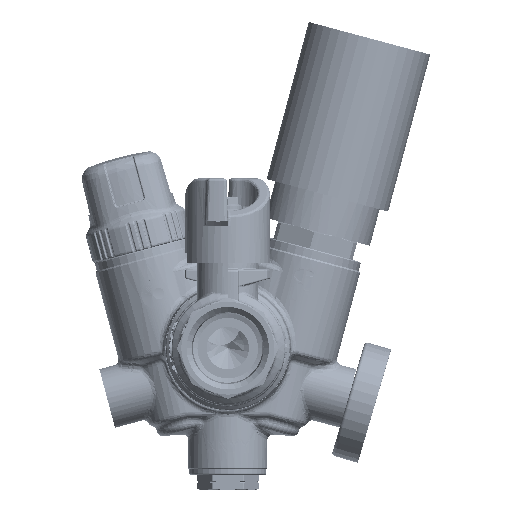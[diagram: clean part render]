
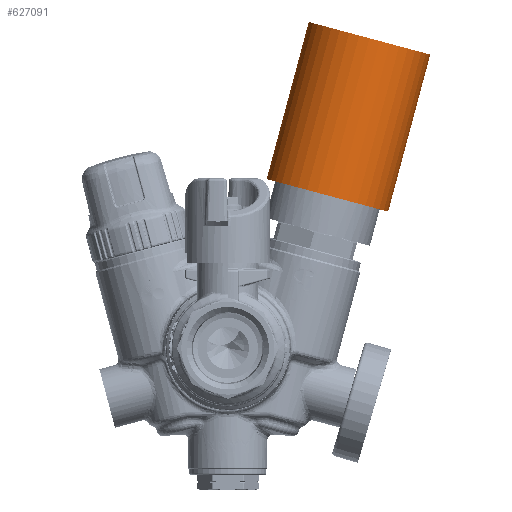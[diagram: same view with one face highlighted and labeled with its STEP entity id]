
A CAD part, left-side view. The second image highlights one B-rep face of the part: STEP entity #627091.
In plain terms, the highlighted cylindrical face has radius 20.766 mm (diameter 41.532 mm), a partial arc.
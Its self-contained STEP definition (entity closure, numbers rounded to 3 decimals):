
#626848 = PLANE('',#626849);
#626849 = AXIS2_PLACEMENT_3D('',#626850,#626851,#626852);
#626850 = CARTESIAN_POINT('',(71.191,46.004,
    35.396));
#626851 = DIRECTION('',(0.,0.966,0.259));
#626852 = DIRECTION('',(0.,-0.259,0.966));
#626873 = VERTEX_POINT('',#626874);
#626874 = CARTESIAN_POINT('',(73.694,52.947,
    9.483));
#626888 = PLANE('',#626889);
#626889 = AXIS2_PLACEMENT_3D('',#626890,#626891,#626892);
#626890 = CARTESIAN_POINT('',(54.763,44.702,
    7.274));
#626891 = DIRECTION('',(0.,-0.259,0.966));
#626892 = DIRECTION('',(1.,0.,0.));
#626900 = EDGE_CURVE('',#626873,#626901,#626903,.T.);
#626901 = VERTEX_POINT('',#626902);
#626902 = CARTESIAN_POINT('',(73.694,39.06,
    61.309));
#626903 = SURFACE_CURVE('',#626904,(#626908,#626915),.PCURVE_S1.);
#626904 = LINE('',#626905,#626906);
#626905 = CARTESIAN_POINT('',(73.694,46.004,
    35.396));
#626906 = VECTOR('',#626907,1.);
#626907 = DIRECTION('',(0.,-0.259,0.966));
#626908 = PCURVE('',#626848,#626909);
#626909 = DEFINITIONAL_REPRESENTATION('',(#626910),#626914);
#626910 = LINE('',#626911,#626912);
#626911 = CARTESIAN_POINT('',(0.,2.503));
#626912 = VECTOR('',#626913,1.);
#626913 = DIRECTION('',(1.,0.));
#626914 = ( GEOMETRIC_REPRESENTATION_CONTEXT(2) 
PARAMETRIC_REPRESENTATION_CONTEXT() REPRESENTATION_CONTEXT('2D SPACE',''
  ) );
#626915 = PCURVE('',#626916,#626921);
#626916 = CYLINDRICAL_SURFACE('',#626917,20.766);
#626917 = AXIS2_PLACEMENT_3D('',#626918,#626919,#626920);
#626918 = CARTESIAN_POINT('',(54.763,30.815,
    59.1));
#626919 = DIRECTION('',(0.,0.259,-0.966));
#626920 = DIRECTION('',(1.,0.,0.));
#626921 = DEFINITIONAL_REPRESENTATION('',(#626922),#626926);
#626922 = LINE('',#626923,#626924);
#626923 = CARTESIAN_POINT('',(5.86,26.827));
#626924 = VECTOR('',#626925,1.);
#626925 = DIRECTION('',(0.,-1.));
#626926 = ( GEOMETRIC_REPRESENTATION_CONTEXT(2) 
PARAMETRIC_REPRESENTATION_CONTEXT() REPRESENTATION_CONTEXT('2D SPACE',''
  ) );
#626944 = PLANE('',#626945);
#626945 = AXIS2_PLACEMENT_3D('',#626946,#626947,#626948);
#626946 = CARTESIAN_POINT('',(77.759,39.06,
    61.309));
#626947 = DIRECTION('',(0.,-0.259,0.966));
#626948 = DIRECTION('',(-1.,0.,0.));
#627042 = VERTEX_POINT('',#627043);
#627043 = CARTESIAN_POINT('',(73.694,36.457,
    5.065));
#627057 = PLANE('',#627058);
#627058 = AXIS2_PLACEMENT_3D('',#627059,#627060,#627061);
#627059 = CARTESIAN_POINT('',(71.191,29.514,
    30.978));
#627060 = DIRECTION('',(0.,0.966,0.259));
#627061 = DIRECTION('',(0.,-0.259,0.966));
#627069 = EDGE_CURVE('',#626873,#627042,#627070,.T.);
#627070 = SURFACE_CURVE('',#627071,(#627076,#627083),.PCURVE_S1.);
#627071 = CIRCLE('',#627072,20.766);
#627072 = AXIS2_PLACEMENT_3D('',#627073,#627074,#627075);
#627073 = CARTESIAN_POINT('',(54.763,44.702,
    7.274));
#627074 = DIRECTION('',(0.,-0.259,0.966));
#627075 = DIRECTION('',(1.,0.,0.));
#627076 = PCURVE('',#626888,#627077);
#627077 = DEFINITIONAL_REPRESENTATION('',(#627078),#627082);
#627078 = CIRCLE('',#627079,20.766);
#627079 = AXIS2_PLACEMENT_2D('',#627080,#627081);
#627080 = CARTESIAN_POINT('',(0.,0.));
#627081 = DIRECTION('',(1.,0.));
#627082 = ( GEOMETRIC_REPRESENTATION_CONTEXT(2) 
PARAMETRIC_REPRESENTATION_CONTEXT() REPRESENTATION_CONTEXT('2D SPACE',''
  ) );
#627083 = PCURVE('',#626916,#627084);
#627084 = DEFINITIONAL_REPRESENTATION('',(#627085),#627089);
#627085 = LINE('',#627086,#627087);
#627086 = CARTESIAN_POINT('',(6.283,53.654));
#627087 = VECTOR('',#627088,1.);
#627088 = DIRECTION('',(-1.,0.));
#627089 = ( GEOMETRIC_REPRESENTATION_CONTEXT(2) 
PARAMETRIC_REPRESENTATION_CONTEXT() REPRESENTATION_CONTEXT('2D SPACE',''
  ) );
#627091 = ADVANCED_FACE('',(#627092),#626916,.T.);
#627092 = FACE_BOUND('',#627093,.T.);
#627093 = EDGE_LOOP('',(#627094,#627117,#627139,#627140));
#627094 = ORIENTED_EDGE('',*,*,#627095,.F.);
#627095 = EDGE_CURVE('',#627096,#627042,#627098,.T.);
#627096 = VERTEX_POINT('',#627097);
#627097 = CARTESIAN_POINT('',(73.694,22.57,
    56.89));
#627098 = SURFACE_CURVE('',#627099,(#627103,#627110),.PCURVE_S1.);
#627099 = LINE('',#627100,#627101);
#627100 = CARTESIAN_POINT('',(73.694,29.514,
    30.978));
#627101 = VECTOR('',#627102,1.);
#627102 = DIRECTION('',(0.,0.259,-0.966));
#627103 = PCURVE('',#626916,#627104);
#627104 = DEFINITIONAL_REPRESENTATION('',(#627105),#627109);
#627105 = LINE('',#627106,#627107);
#627106 = CARTESIAN_POINT('',(0.424,26.827));
#627107 = VECTOR('',#627108,1.);
#627108 = DIRECTION('',(0.,1.));
#627109 = ( GEOMETRIC_REPRESENTATION_CONTEXT(2) 
PARAMETRIC_REPRESENTATION_CONTEXT() REPRESENTATION_CONTEXT('2D SPACE',''
  ) );
#627110 = PCURVE('',#627057,#627111);
#627111 = DEFINITIONAL_REPRESENTATION('',(#627112),#627116);
#627112 = LINE('',#627113,#627114);
#627113 = CARTESIAN_POINT('',(0.,2.503));
#627114 = VECTOR('',#627115,1.);
#627115 = DIRECTION('',(-1.,0.));
#627116 = ( GEOMETRIC_REPRESENTATION_CONTEXT(2) 
PARAMETRIC_REPRESENTATION_CONTEXT() REPRESENTATION_CONTEXT('2D SPACE',''
  ) );
#627117 = ORIENTED_EDGE('',*,*,#627118,.F.);
#627118 = EDGE_CURVE('',#626901,#627096,#627119,.T.);
#627119 = SURFACE_CURVE('',#627120,(#627125,#627132),.PCURVE_S1.);
#627120 = CIRCLE('',#627121,20.766);
#627121 = AXIS2_PLACEMENT_3D('',#627122,#627123,#627124);
#627122 = CARTESIAN_POINT('',(54.763,30.815,
    59.1));
#627123 = DIRECTION('',(0.,-0.259,0.966));
#627124 = DIRECTION('',(1.,0.,0.));
#627125 = PCURVE('',#626916,#627126);
#627126 = DEFINITIONAL_REPRESENTATION('',(#627127),#627131);
#627127 = LINE('',#627128,#627129);
#627128 = CARTESIAN_POINT('',(6.283,0.));
#627129 = VECTOR('',#627130,1.);
#627130 = DIRECTION('',(-1.,0.));
#627131 = ( GEOMETRIC_REPRESENTATION_CONTEXT(2) 
PARAMETRIC_REPRESENTATION_CONTEXT() REPRESENTATION_CONTEXT('2D SPACE',''
  ) );
#627132 = PCURVE('',#626944,#627133);
#627133 = DEFINITIONAL_REPRESENTATION('',(#627134),#627138);
#627134 = CIRCLE('',#627135,20.766);
#627135 = AXIS2_PLACEMENT_2D('',#627136,#627137);
#627136 = CARTESIAN_POINT('',(22.996,8.536));
#627137 = DIRECTION('',(-1.,-0.));
#627138 = ( GEOMETRIC_REPRESENTATION_CONTEXT(2) 
PARAMETRIC_REPRESENTATION_CONTEXT() REPRESENTATION_CONTEXT('2D SPACE',''
  ) );
#627139 = ORIENTED_EDGE('',*,*,#626900,.F.);
#627140 = ORIENTED_EDGE('',*,*,#627069,.T.);
